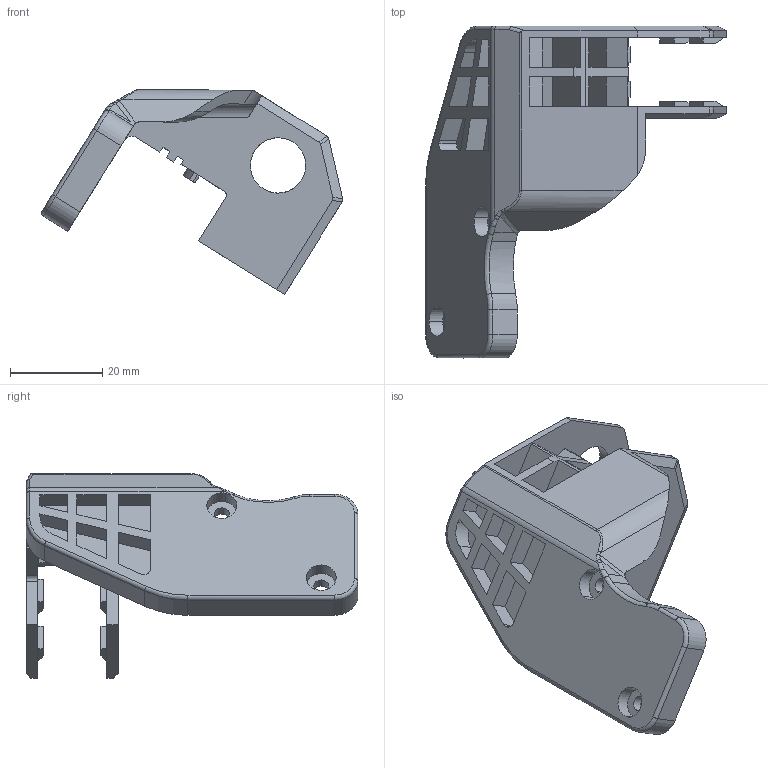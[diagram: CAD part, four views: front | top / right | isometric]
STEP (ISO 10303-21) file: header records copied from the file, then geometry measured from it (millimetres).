
FILE_DESCRIPTION(('CATIA V5 STEP Exchange'),'2;1');
FILE_NAME('C:\Users\Administrator\Desktop\573.4601.01_V1（BPC0010035）.stp','2021-01-28T03:12:45+00:00',('none'),('none'),'CATIA Version 5 Release 21 GA (IN-10)','CATIA V5 STEP AP214','none');
FILE_SCHEMA(('AUTOMOTIVE_DESIGN { 1 0 10303 214 1 1 1 1 }'));
Length unit declared in the file: millimetre
Products named in the file (1): 573.4601.01_V1
Bounding box: 65.29 x 72 x 44.44 mm (x, y, z)
Volume: 17295 mm3; surface area: 14829.5 mm2
Topology: 1 solids, 1 shells, 260 faces, 755 edges, 507 vertices
Faces by surface type: plane 172, cylinder 69, bspline 14, torus 5
Entity records: 10803 total; most frequent: CARTESIAN_POINT 2425, ORIENTED_EDGE 1510, DIRECTION 1109, EDGE_CURVE 755, VECTOR 532, LINE 532, VERTEX_POINT 507, AXIS2_PLACEMENT_3D 334
